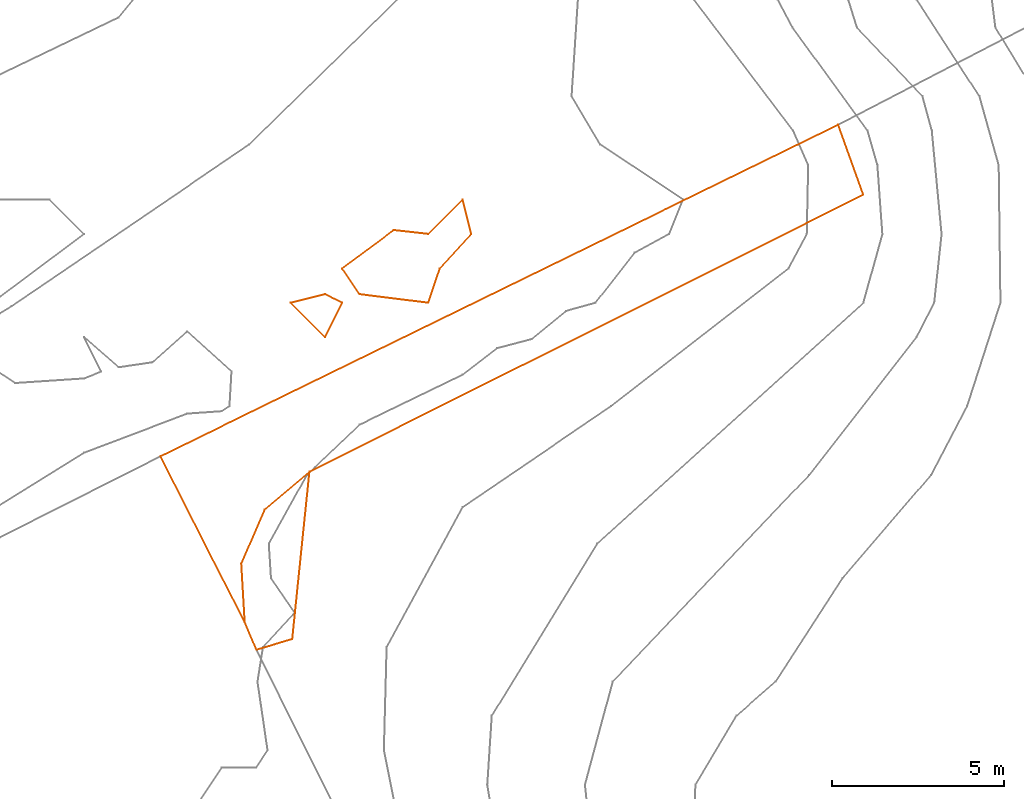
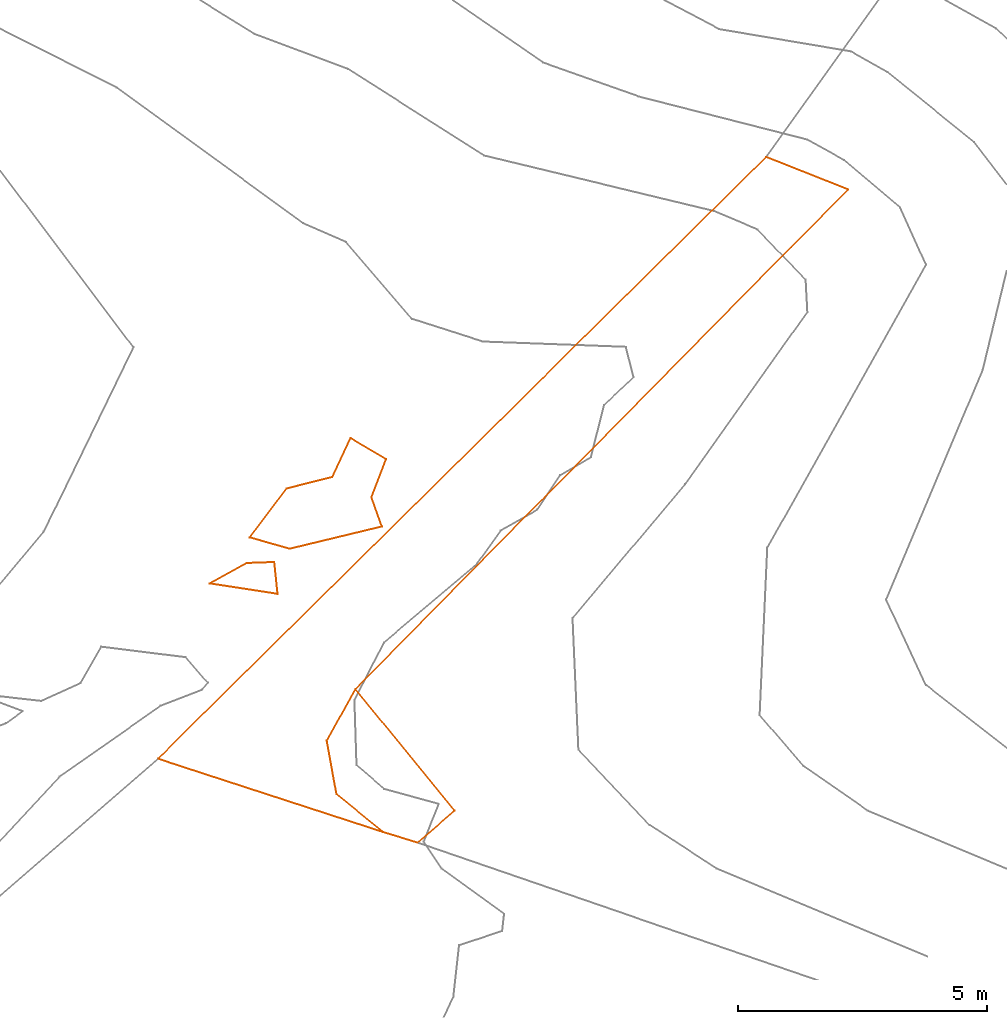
# Not in any storey, part 325 of 419: 4 proxies.
"""IFC2X3 model written with IfcOpenShell, lengths in metres."""

from ifc_helpers import new_model, entity, si_unit, frame, origin_with_axes, place, context, subcontext, project, element, save


model = new_model("IFC2X3")

# Units and contexts
model_context = context("Model", 3, precision=1e-05, world=origin_with_axes())
body_context = subcontext(model_context, "Body", "Model", "MODEL_VIEW")
ifc_project = project(units=[si_unit("AREAUNIT", "SQUARE_METRE"), si_unit("LENGTHUNIT", "METRE")], contexts=[model_context])

# Proxies
proxy_1_placement = place(None, frame((322.6620204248, 872.3176909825, 30.9188116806), z_axis=(0.0, 0.0, 1.0), x_axis=(1.0, 0.0, 0.0)))
element("IfcBuildingElementProxy", 1, at=proxy_1_placement, Name="Cadastre 305", ObjectType="NOTDEFINED", context=body_context, shape_type="GeometricCurveSet", body=[
    entity("IfcGeometricCurveSet", [entity("IfcPolyline", [entity("IfcCartesianPoint", [1.98, 2.6699999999, 0.2742590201]), entity("IfcCartesianPoint", [1.48, -2.1899999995, 0.410678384]), entity("IfcCartesianPoint", [0.4399999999, -2.5, 0.1724198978]), entity("IfcCartesianPoint", [0.1, -1.7000000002, 0.0655078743]), entity("IfcCartesianPoint", [0.0, 0.0, 0.0]), entity("IfcCartesianPoint", [0.6799999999, 1.5700000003, 0.1248885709]), entity("IfcCartesianPoint", [1.98, 2.6699999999, 0.2742590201])])]),
])
proxy_2_placement = place(None, frame((320.3120204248, 875.4376909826, 30.7210725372), z_axis=(0.0, 0.0, 1.0), x_axis=(1.0, 0.0, 0.0)))
element("IfcBuildingElementProxy", 2, at=proxy_2_placement, Name="Cadastre 308", ObjectType="NOTDEFINED", context=body_context, shape_type="GeometricCurveSet", body=[
    entity("IfcGeometricCurveSet", [entity("IfcPolyline", [entity("IfcCartesianPoint", [0.0, 0.0, 0.0]), entity("IfcCartesianPoint", [19.6900000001, 9.6299999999, 2.0485273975]), entity("IfcCartesianPoint", [20.42, 7.5999999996, 2.2263357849]), entity("IfcCartesianPoint", [4.3300000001, -0.4500000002, 0.4719981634]), entity("IfcCartesianPoint", [3.03, -1.5499999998, 0.3226277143]), entity("IfcCartesianPoint", [2.3500000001, -3.1200000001, 0.1977391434]), entity("IfcCartesianPoint", [2.4500000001, -4.8200000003, 0.2632470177]), entity("IfcCartesianPoint", [0.0, 0.0, 0.0])])]),
])
proxy_3_placement = place(None, frame((325.592003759, 880.8976909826, 31.0), z_axis=(0.0, 0.0, 1.0), x_axis=(1.0, 0.0, 0.0)))
element("IfcBuildingElementProxy", 3, at=proxy_3_placement, Name="Contour 31.0 m", ObjectType="NOTDEFINED", context=body_context, shape_type="GeometricCurveSet", body=[
    entity("IfcGeometricCurveSet", [entity("IfcPolyline", [entity("IfcCartesianPoint", [2.500041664, -1.0, 0.0]), entity("IfcCartesianPoint", [0.5000166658, -0.75, 0.0]), entity("IfcCartesianPoint", [0.0, 0.0, 0.0]), entity("IfcCartesianPoint", [1.5000166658, 1.1111134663, 0.0]), entity("IfcCartesianPoint", [2.5000166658, 1.0000249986, 0.0]), entity("IfcCartesianPoint", [3.5000166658, 2.000016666, 0.0]), entity("IfcCartesianPoint", [3.7500166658, 1.0, 0.0]), entity("IfcCartesianPoint", [2.8333499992, 0.0, 0.0]), entity("IfcCartesianPoint", [2.500041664, -1.0, 0.0])])]),
])
proxy_4_placement = place(None, frame((324.0919954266, 879.8976909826, 31.0), z_axis=(0.0, 0.0, 1.0), x_axis=(1.0, 0.0, 0.0)))
element("IfcBuildingElementProxy", 4, at=proxy_4_placement, Name="Contour 31.0 m", ObjectType="NOTDEFINED", context=body_context, shape_type="GeometricCurveSet", body=[
    entity("IfcGeometricCurveSet", [entity("IfcPolyline", [entity("IfcCartesianPoint", [1.0000499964, -1.0, 0.0]), entity("IfcCartesianPoint", [0.9999750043, -1.0, 0.0]), entity("IfcCartesianPoint", [0.0, 0.0, 0.0]), entity("IfcCartesianPoint", [1.0000249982, 0.25, 0.0]), entity("IfcCartesianPoint", [1.5000749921, 0.0, 0.0]), entity("IfcCartesianPoint", [1.0000499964, -1.0, 0.0])])]),
])

save(model, "model.ifc")
